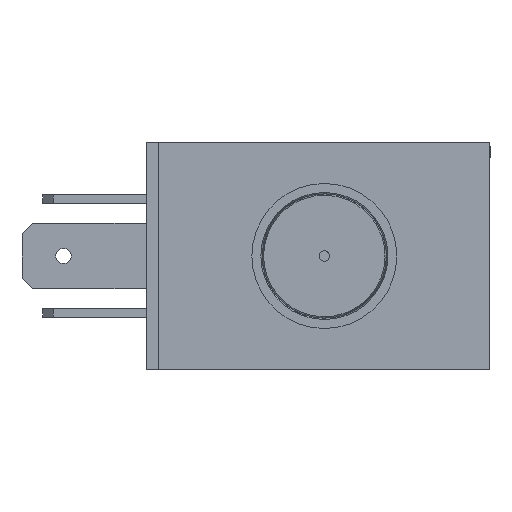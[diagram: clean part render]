
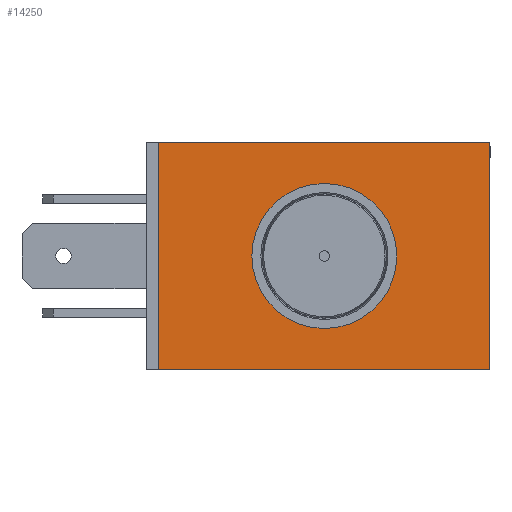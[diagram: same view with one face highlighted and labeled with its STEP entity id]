
A CAD part, left-side view. The second image highlights one B-rep face of the part: STEP entity #14250.
In plain terms, the highlighted planar face has unit normal (-1, 0, 0).
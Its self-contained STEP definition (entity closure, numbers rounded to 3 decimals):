
#1158 = ORIENTED_EDGE ( 'NONE', *, *, #29457, .T. ) ;
#1159 = ORIENTED_EDGE ( 'NONE', *, *, #16612, .F. ) ;
#1160 = ORIENTED_EDGE ( 'NONE', *, *, #16619, .T. ) ;
#1161 = ORIENTED_EDGE ( 'NONE', *, *, #16597, .T. ) ;
#1162 = ORIENTED_EDGE ( 'NONE', *, *, #16617, .T. ) ;
#1163 = ORIENTED_EDGE ( 'NONE', *, *, #30046, .T. ) ;
#5845 = AXIS2_PLACEMENT_3D ( 'NONE', #9592, #9598, #9599 ) ;
#8630 = FACE_OUTER_BOUND ( 'NONE', #28435, .T. ) ;
#8638 = FACE_BOUND ( 'NONE', #28442, .T. ) ;
#9592 = CARTESIAN_POINT ( 'NONE',  ( 0., 0., 0. ) ) ;
#9597 = PLANE ( 'NONE',  #5845 ) ;
#9598 = DIRECTION ( 'NONE',  ( -1., 0., 0. ) ) ;
#9599 = DIRECTION ( 'NONE',  ( 0., 0.707, 0.707 ) ) ;
#13380 = AXIS2_PLACEMENT_3D ( 'NONE', #18904, #18905, #18906 ) ;
#13733 = AXIS2_PLACEMENT_3D ( 'NONE', #26561, #26562, #26563 ) ;
#14250 = ADVANCED_FACE ( 'NONE', ( #8630, #8638 ), #9597, .T. ) ;
#16597 = EDGE_CURVE ( 'NONE', #27756, #27818, #17680, .T. ) ;
#16612 = EDGE_CURVE ( 'NONE', #27880, #27504, #17702, .T. ) ;
#16617 = EDGE_CURVE ( 'NONE', #27649, #27646, #17709, .T. ) ;
#16619 = EDGE_CURVE ( 'NONE', #27880, #27756, #17710, .T. ) ;
#17674 = VECTOR ( 'NONE', #18854, 1000. ) ;
#17680 = LINE ( 'NONE', #18853, #17674 ) ;
#17681 = VECTOR ( 'NONE', #18911, 1000. ) ;
#17688 = VECTOR ( 'NONE', #18893, 1000. ) ;
#17702 = LINE ( 'NONE', #18864, #17688 ) ;
#17709 = CIRCLE ( 'NONE', #13380, 7. ) ;
#17710 = LINE ( 'NONE', #18892, #17681 ) ;
#18853 = CARTESIAN_POINT ( 'NONE',  ( 0., 0., 0. ) ) ;
#18854 = DIRECTION ( 'NONE',  ( 0., 0., 1. ) ) ;
#18864 = CARTESIAN_POINT ( 'NONE',  ( 0., 32., 0. ) ) ;
#18892 = CARTESIAN_POINT ( 'NONE',  ( 0., 32., 0. ) ) ;
#18893 = DIRECTION ( 'NONE',  ( 0., 0., 1. ) ) ;
#18904 = CARTESIAN_POINT ( 'NONE',  ( 0., 16., 11. ) ) ;
#18905 = DIRECTION ( 'NONE',  ( 1., 0., 0. ) ) ;
#18906 = DIRECTION ( 'NONE',  ( 0., 0., -1. ) ) ;
#18911 = DIRECTION ( 'NONE',  ( 0., -1., 0. ) ) ;
#20500 = CARTESIAN_POINT ( 'NONE',  ( 0., 32., 22. ) ) ;
#20642 = CARTESIAN_POINT ( 'NONE',  ( 0., 16., 18. ) ) ;
#20645 = CARTESIAN_POINT ( 'NONE',  ( 0., 16., 4. ) ) ;
#20752 = CARTESIAN_POINT ( 'NONE',  ( 0., 0., 0. ) ) ;
#20814 = CARTESIAN_POINT ( 'NONE',  ( 0., 0., 22. ) ) ;
#20876 = CARTESIAN_POINT ( 'NONE',  ( 0., 32., 0. ) ) ;
#22188 = LINE ( 'NONE', #23604, #22218 ) ;
#22218 = VECTOR ( 'NONE', #23609, 1000. ) ;
#23604 = CARTESIAN_POINT ( 'NONE',  ( 0., 0., 22. ) ) ;
#23609 = DIRECTION ( 'NONE',  ( 0., 1., 0. ) ) ;
#25621 = CIRCLE ( 'NONE', #13733, 7. ) ;
#26561 = CARTESIAN_POINT ( 'NONE',  ( 0., 16., 11. ) ) ;
#26562 = DIRECTION ( 'NONE',  ( 1., 0., 0. ) ) ;
#26563 = DIRECTION ( 'NONE',  ( 0., 0., -1. ) ) ;
#27504 = VERTEX_POINT ( 'NONE', #20500 ) ;
#27646 = VERTEX_POINT ( 'NONE', #20642 ) ;
#27649 = VERTEX_POINT ( 'NONE', #20645 ) ;
#27756 = VERTEX_POINT ( 'NONE', #20752 ) ;
#27818 = VERTEX_POINT ( 'NONE', #20814 ) ;
#27880 = VERTEX_POINT ( 'NONE', #20876 ) ;
#28435 = EDGE_LOOP ( 'NONE', ( #1158, #1159, #1160, #1161 ) ) ;
#28442 = EDGE_LOOP ( 'NONE', ( #1162, #1163 ) ) ;
#29457 = EDGE_CURVE ( 'NONE', #27818, #27504, #22188, .T. ) ;
#30046 = EDGE_CURVE ( 'NONE', #27646, #27649, #25621, .T. ) ;
